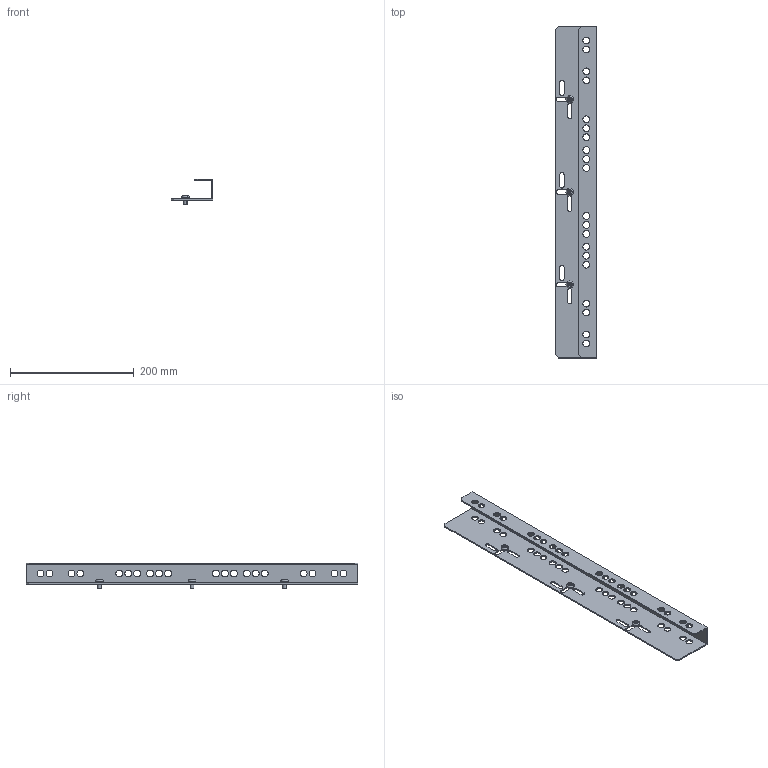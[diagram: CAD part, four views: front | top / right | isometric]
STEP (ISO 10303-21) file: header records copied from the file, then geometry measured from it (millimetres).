
FILE_DESCRIPTION (( 'STEP AP214' ), '1' );
FILE_NAME ('FO-00-SIEF Êîìïëåêò ïëàíêè îïîðíûõ èçîëÿòîðîâ ARMAT ACB òèïîðàçìåð E (äî 3200À) F 3II4P.STEP', '2025-08-04T10:54:17', ( '' ), ( '' ), 'SwSTEP 2.0', 'SolidWorks 2023', '' );
FILE_SCHEMA (( 'AUTOMOTIVE_DESIGN' ));
Length unit declared in the file: millimetre
Products named in the file (3): Комплект планки опорных изоляторов ARMAT ACB типоразмер E (до 3200А) F 3II4P; Винт М6х10 IEK; FO-00-SIEF Комплект планки опорных изоляторов ARMAT ACB типоразмер E (до 3200А) F 3II4P
Assembly tree (4 placements, depth 2):
  FO-00-SIEF Комплект планки опорных изоляторов ARMAT ACB типоразмер E (до 3200А) F 3II4P
    Комплект планки опорных изоляторов ARMAT ACB типоразмер E (до 3200А) F 3II4P
    Винт М6х10 IEK  x3
Bounding box: 67.5 x 537.5 x 42 mm (x, y, z)
Volume: 123751.3 mm3; surface area: 131195.3 mm2
Topology: 4 solids, 4 shells, 274 faces, 762 edges, 502 vertices
Faces by surface type: cylinder 153, plane 76, cone 33, torus 12
Entity records: 7514 total; most frequent: DIRECTION 1360, CARTESIAN_POINT 1261, ORIENTED_EDGE 1224, EDGE_CURVE 612, AXIS2_PLACEMENT_3D 537, VERTEX_POINT 406, EDGE_LOOP 352, CIRCLE 318
